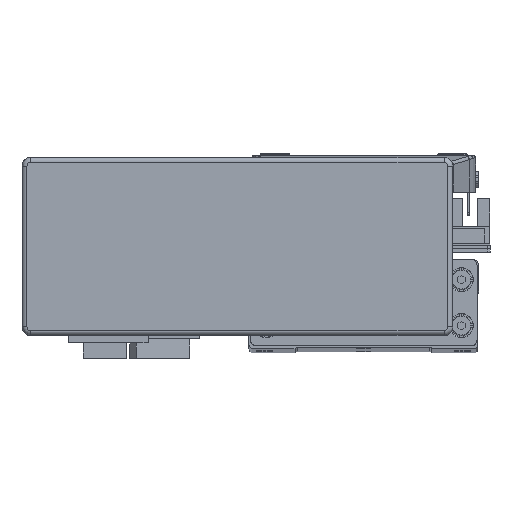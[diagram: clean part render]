
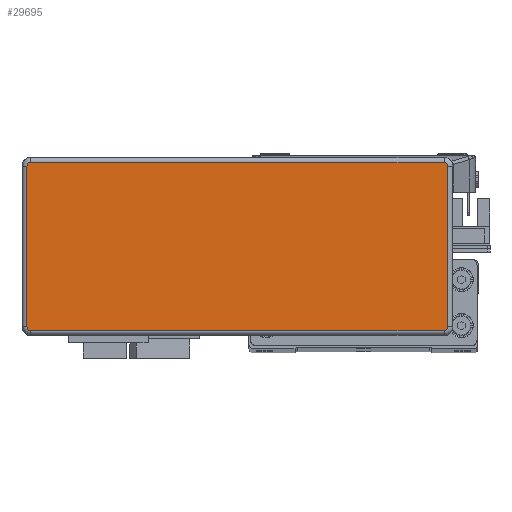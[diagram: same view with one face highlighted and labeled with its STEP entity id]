
A CAD part, top view. The second image highlights one B-rep face of the part: STEP entity #29695.
In plain terms, the highlighted planar face has unit normal (0, 0, 1) as drawn and (0, 0, -1) by its records, which use the part's own axes.
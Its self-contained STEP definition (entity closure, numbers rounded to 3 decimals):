
#518 = CARTESIAN_POINT ( 'NONE',  ( 73.295, 27.995, -32.2 ) ) ;
#523 = CARTESIAN_POINT ( 'NONE',  ( 71.995, 29.295, -32.2 ) ) ;
#556 = CARTESIAN_POINT ( 'NONE',  ( -73.295, 27.995, -32.2 ) ) ;
#558 = CARTESIAN_POINT ( 'NONE',  ( -71.995, 29.295, -32.2 ) ) ;
#569 = CARTESIAN_POINT ( 'NONE',  ( -71.995, -29.295, -32.2 ) ) ;
#572 = CARTESIAN_POINT ( 'NONE',  ( -73.295, -27.995, -32.2 ) ) ;
#623 = CARTESIAN_POINT ( 'NONE',  ( 73.295, -27.995, -32.2 ) ) ;
#624 = CARTESIAN_POINT ( 'NONE',  ( 71.995, -29.295, -32.2 ) ) ;
#961 = CARTESIAN_POINT ( 'NONE',  ( 71.995, 29.295, -32.2 ) ) ;
#964 = DIRECTION ( 'NONE',  ( 1., 0., 0. ) ) ;
#1045 = DIRECTION ( 'NONE',  ( -1., 0., 0. ) ) ;
#1050 = CARTESIAN_POINT ( 'NONE',  ( 71.995, -29.295, -32.2 ) ) ;
#1058 = CARTESIAN_POINT ( 'NONE',  ( 73.295, -27.995, -32.2 ) ) ;
#1068 = DIRECTION ( 'NONE',  ( 0., -1., 0. ) ) ;
#1206 = DIRECTION ( 'NONE',  ( 0., 0., -1. ) ) ;
#1227 = DIRECTION ( 'NONE',  ( 1., 0., 0. ) ) ;
#1234 = CARTESIAN_POINT ( 'NONE',  ( -71.995, -27.995, -32.2 ) ) ;
#1416 = CARTESIAN_POINT ( 'NONE',  ( 71.995, -27.995, -32.2 ) ) ;
#1419 = DIRECTION ( 'NONE',  ( 1., 0., 0. ) ) ;
#1447 = DIRECTION ( 'NONE',  ( 0., 0., -1. ) ) ;
#1455 = CARTESIAN_POINT ( 'NONE',  ( 71.995, 27.995, -32.2 ) ) ;
#1474 = DIRECTION ( 'NONE',  ( 0., 0., -1. ) ) ;
#1475 = DIRECTION ( 'NONE',  ( 1., 0., 0. ) ) ;
#1487 = DIRECTION ( 'NONE',  ( 0., 0., -1. ) ) ;
#1488 = DIRECTION ( 'NONE',  ( 1., 0., 0. ) ) ;
#1491 = CARTESIAN_POINT ( 'NONE',  ( -71.995, 27.995, -32.2 ) ) ;
#1581 = DIRECTION ( 'NONE',  ( 0., 1., 0. ) ) ;
#1584 = CARTESIAN_POINT ( 'NONE',  ( -73.295, -27.995, -32.2 ) ) ;
#3800 = ORIENTED_EDGE ( 'NONE', *, *, #24426, .T. ) ;
#3808 = ORIENTED_EDGE ( 'NONE', *, *, #24381, .T. ) ;
#3810 = ORIENTED_EDGE ( 'NONE', *, *, #24340, .T. ) ;
#3823 = ORIENTED_EDGE ( 'NONE', *, *, #24227, .T. ) ;
#3832 = ORIENTED_EDGE ( 'NONE', *, *, #24383, .T. ) ;
#3833 = ORIENTED_EDGE ( 'NONE', *, *, #24187, .T. ) ;
#3848 = ORIENTED_EDGE ( 'NONE', *, *, #24299, .T. ) ;
#3852 = ORIENTED_EDGE ( 'NONE', *, *, #24257, .T. ) ;
#10851 = CARTESIAN_POINT ( 'NONE',  ( 71.995, -27.995, -32.2 ) ) ;
#10866 = PLANE ( 'NONE',  #31268 ) ;
#10870 = DIRECTION ( 'NONE',  ( 0., 0., 1. ) ) ;
#10891 = DIRECTION ( 'NONE',  ( 1., 0., 0. ) ) ;
#12643 = VECTOR ( 'NONE', #964, 1000. ) ;
#12667 = LINE ( 'NONE', #961, #12643 ) ;
#12689 = VECTOR ( 'NONE', #1068, 1000. ) ;
#12701 = CIRCLE ( 'NONE', #30885, 1.3 ) ;
#12714 = LINE ( 'NONE', #1050, #12730 ) ;
#12730 = VECTOR ( 'NONE', #1045, 1000. ) ;
#12748 = LINE ( 'NONE', #1058, #12689 ) ;
#12797 = CIRCLE ( 'NONE', #30883, 1.3 ) ;
#12799 = CIRCLE ( 'NONE', #30901, 1.3 ) ;
#12804 = CIRCLE ( 'NONE', #30849, 1.3 ) ;
#12841 = LINE ( 'NONE', #1584, #12875 ) ;
#12875 = VECTOR ( 'NONE', #1581, 1000. ) ;
#21849 = EDGE_LOOP ( 'NONE', ( #3852, #3810, #3823, #3848, #3800, #3808, #3833, #3832 ) ) ;
#24187 = EDGE_CURVE ( 'NONE', #27180, #27246, #12667, .T. ) ;
#24227 = EDGE_CURVE ( 'NONE', #27276, #27194, #12714, .T. ) ;
#24257 = EDGE_CURVE ( 'NONE', #27209, #27290, #12748, .T. ) ;
#24299 = EDGE_CURVE ( 'NONE', #27194, #27196, #12701, .T. ) ;
#24340 = EDGE_CURVE ( 'NONE', #27290, #27276, #12804, .T. ) ;
#24381 = EDGE_CURVE ( 'NONE', #27168, #27180, #12799, .T. ) ;
#24383 = EDGE_CURVE ( 'NONE', #27246, #27209, #12797, .T. ) ;
#24426 = EDGE_CURVE ( 'NONE', #27196, #27168, #12841, .T. ) ;
#25269 = FACE_OUTER_BOUND ( 'NONE', #21849, .T. ) ;
#27168 = VERTEX_POINT ( 'NONE', #556 ) ;
#27180 = VERTEX_POINT ( 'NONE', #558 ) ;
#27194 = VERTEX_POINT ( 'NONE', #569 ) ;
#27196 = VERTEX_POINT ( 'NONE', #572 ) ;
#27209 = VERTEX_POINT ( 'NONE', #518 ) ;
#27246 = VERTEX_POINT ( 'NONE', #523 ) ;
#27276 = VERTEX_POINT ( 'NONE', #624 ) ;
#27290 = VERTEX_POINT ( 'NONE', #623 ) ;
#29695 = ADVANCED_FACE ( 'NONE', ( #25269 ), #10866, .F. ) ;
#30849 = AXIS2_PLACEMENT_3D ( 'NONE', #1416, #1447, #1419 ) ;
#30883 = AXIS2_PLACEMENT_3D ( 'NONE', #1455, #1487, #1488 ) ;
#30885 = AXIS2_PLACEMENT_3D ( 'NONE', #1234, #1206, #1227 ) ;
#30901 = AXIS2_PLACEMENT_3D ( 'NONE', #1491, #1474, #1475 ) ;
#31268 = AXIS2_PLACEMENT_3D ( 'NONE', #10851, #10870, #10891 ) ;
